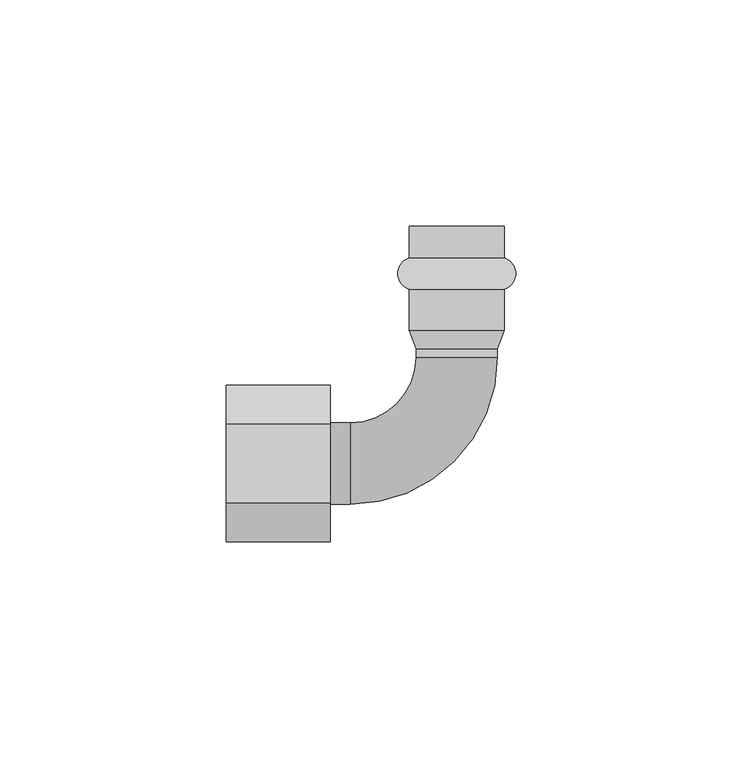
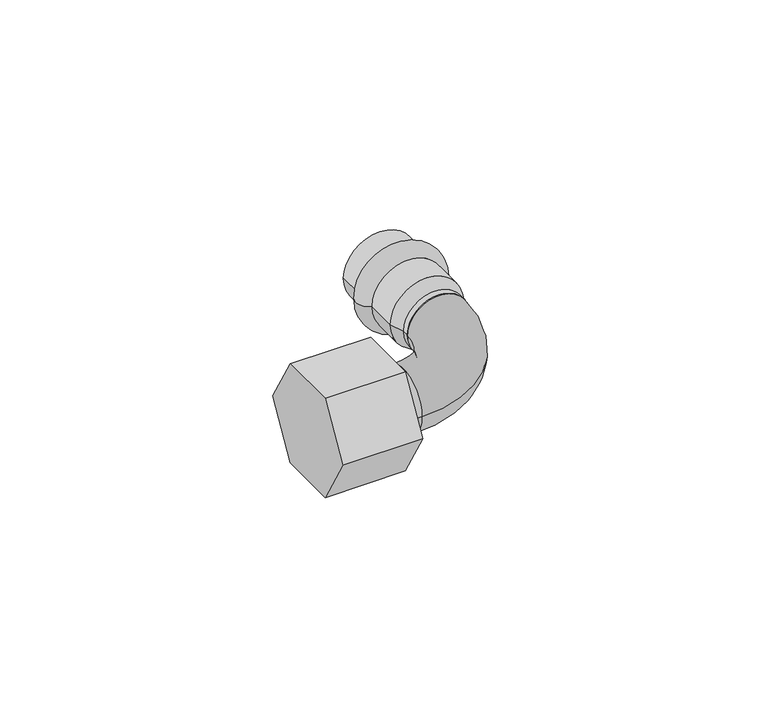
"""IFC4 building model written with IfcOpenShell, lengths in millimetres: valve geometry, Отвод_90°_с_переходом_на_внутреннюю_или_наружнюю_резьбу : VTi.956.I."""

from ifc_helpers import new_model, si_unit, point, frame, origin, place, context, project, spatial, polyline, circle_curve, ellipse_curve, trimmed, outline, extrude, source, transform, mapped, element, save
from ifc_brep_helpers import plane_surface, cylinder_surface, revolved_surface, advanced_brep


def valve_e3d4f6f2(model_context):
    return source(origin(), model_context, "Body", "SolidModel", [
        extrude(outline(polyline([(-8.660254, 15.0), (8.660254, 15.0), (17.3205081, 0.0), (8.660254, -15.0), (-8.660254, -15.0), (-17.3205081, 0.0), (-8.660254, 15.0)])), frame((-51.0, 0.0, 0.0), z_axis=(1.0, 0.0, 0.0), x_axis=(0.0, 1.0, 0.0)), (0.0, 0.0, 1.0), 23.0),
        advanced_brep(
        [(10.45, 45.51, 0.0), (-10.45, 45.51, 0.0), (-10.45, 52.5, 0.0), (10.45, 52.5, 0.0), (10.45, 38.49, 0.0), (-10.45, 38.49, 0.0), (10.45, 29.5, 0.0), (-10.45, 29.5, 0.0), (9.0, 25.38, 0.0), (-9.0, 25.38, 0.0), (9.0, 23.5, 0.0), (-9.0, 23.5, 0.0), (0.0, 23.5, 0.0), (0.0, 52.5, 0.0)],
        [
            (0, 1, circle_curve(frame((0.0, 45.51, 0.0), z_axis=(0.0, 1.0, 0.0), x_axis=(-1.0, 0.0, 0.0)), 10.45)),
            (1, 2),
            (2, 3, circle_curve(frame((0.0, 52.5, 0.0), z_axis=(0.0, -1.0, 0.0), x_axis=(-1.0, 0.0, 0.0)), 10.45)),
            (3, 0),
            (1, 0, circle_curve(frame((0.0, 45.51, 0.0), z_axis=(0.0, 1.0, 0.0), x_axis=(-1.0, 0.0, 0.0)), 10.45)),
            (3, 2, circle_curve(frame((0.0, 52.5, 0.0), z_axis=(0.0, -1.0, 0.0), x_axis=(-1.0, 0.0, 0.0)), 10.45)),
            (4, 5, circle_curve(frame((0.0, 38.49, 0.0), z_axis=(0.0, 1.0, 0.0), x_axis=(-1.0, 0.0, 0.0)), 10.45)),
            (5, 1, circle_curve(frame((-9.3504491, 42.0, 0.0), z_axis=(0.0, 0.0, -1.0), x_axis=(0.0, 1.0, 0.0)), 3.6781941)),
            (0, 4, circle_curve(frame((9.3504491, 42.0, 0.0), z_axis=(0.0, 0.0, -1.0), x_axis=(0.0, 1.0, 0.0)), 3.6781941)),
            (5, 4, circle_curve(frame((0.0, 38.49, 0.0), z_axis=(0.0, 1.0, 0.0), x_axis=(-1.0, 0.0, 0.0)), 10.45)),
            (6, 7, circle_curve(frame((0.0, 29.5, 0.0), z_axis=(0.0, 1.0, 0.0), x_axis=(-1.0, 0.0, 0.0)), 10.45)),
            (7, 5),
            (4, 6),
            (7, 6, circle_curve(frame((0.0, 29.5, 0.0), z_axis=(0.0, 1.0, 0.0), x_axis=(-1.0, 0.0, 0.0)), 10.45)),
            (8, 9, circle_curve(frame((0.0, 25.38, 0.0), z_axis=(0.0, 1.0, 0.0), x_axis=(-1.0, 0.0, 0.0)), 9.0)),
            (9, 7),
            (6, 8),
            (9, 8, circle_curve(frame((0.0, 25.38, 0.0), z_axis=(0.0, 1.0, 0.0), x_axis=(-1.0, 0.0, 0.0)), 9.0)),
            (10, 11, circle_curve(frame((0.0, 23.5, 0.0), z_axis=(0.0, 1.0, 0.0), x_axis=(-1.0, 0.0, 0.0)), 9.0)),
            (11, 9),
            (8, 10),
            (11, 10, circle_curve(frame((0.0, 23.5, 0.0), z_axis=(0.0, 1.0, 0.0), x_axis=(-1.0, 0.0, 0.0)), 9.0)),
            (12, 11),
            (10, 12),
            (2, 13),
            (13, 3),
        ],
        [
            cylinder_surface(frame((0.0, 2052.5, 0.0), z_axis=(0.0, -1.0, 0.0), x_axis=(-1.0, 0.0, 0.0)), 10.45),
            revolved_surface(trimmed(ellipse_curve(frame((-9.3504491, 42.0, 0.0), z_axis=(0.0, 0.0, 1.0), x_axis=(0.0, 1.0, 0.0)), 3.6781941, 3.6781941), [point((-10.45, 45.51, 0.0))], [point((-10.45, 38.49, 0.0))], True, "CARTESIAN"), (0.0, 2052.5, 0.0), (0.0, -1.0, 0.0)),
            revolved_surface(polyline([(-10.45, 29.5, 0.0), (-9.0, 25.38, 0.0)]), (0.0, 2052.5, 0.0), (0.0, -1.0, 0.0)),
            cylinder_surface(frame((0.0, 2052.5, 0.0), z_axis=(0.0, -1.0, 0.0), x_axis=(-1.0, 0.0, 0.0)), 9.0),
            plane_surface(frame((0.0, 23.5, 0.0), z_axis=(0.0, -1.0, 0.0), x_axis=(-1.0, 0.0, 0.0))),
            plane_surface(frame((0.0, 52.5, 0.0), z_axis=(0.0, 1.0, 0.0), x_axis=(-1.0, 0.0, 0.0))),
        ],
        [
            (0, [[1, 2, 3, 4]]),
            (0, [[5, -4, 6, -2]]),
            (1, [[7, 8, -1, 9]]),
            (1, [[10, -9, -5, -8]]),
            (0, [[11, 12, -7, 13]]),
            (0, [[14, -13, -10, -12]]),
            (2, [[15, 16, -11, 17]]),
            (2, [[18, -17, -14, -16]]),
            (3, [[19, 20, -15, 21]]),
            (3, [[22, -21, -18, -20]]),
            (4, [[23, -19, 24]]),
            (4, [[-24, -22, -23]]),
            (5, [[-3, 25, 26]]),
            (5, [[-6, -26, -25]]),
        ],
    ),
        advanced_brep(
        [(-23.5, -9.0, 0.0), (-23.5, 9.0, 0.0), (-23.5, 0.0, 0.0), (-28.0, -9.0, 0.0), (-28.0, 9.0, 0.0), (-28.0, 0.0, 0.0)],
        [
            (0, 1, circle_curve(frame((-23.5, 0.0, 0.0), z_axis=(1.0, 0.0, 0.0), x_axis=(0.0, 1.0, 0.0)), 9.0)),
            (1, 2),
            (2, 0),
            (1, 0, circle_curve(frame((-23.5, 0.0, 0.0), z_axis=(1.0, 0.0, 0.0), x_axis=(0.0, 1.0, 0.0)), 9.0)),
            (3, 4, circle_curve(frame((-28.0, 0.0, 0.0), z_axis=(1.0, 0.0, 0.0), x_axis=(0.0, 1.0, 0.0)), 9.0)),
            (4, 1),
            (0, 3),
            (4, 3, circle_curve(frame((-28.0, 0.0, 0.0), z_axis=(1.0, 0.0, 0.0), x_axis=(0.0, 1.0, 0.0)), 9.0)),
            (5, 4),
            (3, 5),
        ],
        [
            plane_surface(frame((-23.5, 0.0, 0.0), z_axis=(1.0, 0.0, 0.0), x_axis=(0.0, 1.0, 0.0))),
            cylinder_surface(frame((2000.0, 0.0, 0.0), z_axis=(-1.0, 0.0, 0.0), x_axis=(0.0, 1.0, 0.0)), 9.0),
            plane_surface(frame((-28.0, 0.0, 0.0), z_axis=(-1.0, 0.0, 0.0), x_axis=(0.0, 1.0, 0.0))),
        ],
        [
            (0, [[1, 2, 3]]),
            (0, [[4, -3, -2]]),
            (1, [[5, 6, -1, 7]]),
            (1, [[8, -7, -4, -6]]),
            (2, [[9, -5, 10]]),
            (2, [[-10, -8, -9]]),
        ],
    ),
        advanced_brep(
        [(-9.0, 23.5, 0.0), (9.0, 23.5, 0.0), (-23.5, 9.0, 0.0), (-23.5, -9.0, 0.0)],
        [
            (0, 1, circle_curve(frame((0.0, 23.5, 0.0), z_axis=(0.0, 1.0, 0.0), x_axis=(1.0, 0.0, 0.0)), 9.0)),
            (1, 0, circle_curve(frame((0.0, 23.5, 0.0), z_axis=(0.0, 1.0, 0.0), x_axis=(1.0, 0.0, 0.0)), 9.0)),
            (2, 3, circle_curve(frame((-23.5, 0.0, 0.0), z_axis=(-1.0, 0.0, 0.0), x_axis=(0.0, -1.0, 0.0)), 9.0)),
            (3, 2, circle_curve(frame((-23.5, 0.0, 0.0), z_axis=(-1.0, 0.0, 0.0), x_axis=(0.0, -1.0, 0.0)), 9.0)),
            (3, 1, circle_curve(frame((-23.5, 23.5, 0.0), z_axis=(0.0, 0.0, 1.0), x_axis=(1.0, 0.0, 0.0)), 32.5)),
            (0, 2, circle_curve(frame((-23.5, 23.5, 0.0), z_axis=(0.0, 0.0, -1.0), x_axis=(1.0, 0.0, 0.0)), 14.5)),
        ],
        [
            plane_surface(frame((0.0, 23.5, 0.0), z_axis=(0.0, 1.0, 0.0), x_axis=(0.0, 0.0, 1.0))),
            plane_surface(frame((-23.5, 0.0, 0.0), z_axis=(-1.0, 0.0, 0.0), x_axis=(0.0, 0.0, 1.0))),
            revolved_surface(trimmed(ellipse_curve(frame((0.0, 23.5, 0.0), z_axis=(0.0, 1.0, 0.0), x_axis=(1.0, 0.0, 0.0)), 9.0, 9.0), [point((-9.0, 23.5, 0.0))], [point((9.0, 23.5, 0.0))], True, "CARTESIAN"), (-23.5, 23.5, 0.0), (0.0, 0.0, -1.0)),
            revolved_surface(trimmed(ellipse_curve(frame((0.0, 23.5, 0.0), z_axis=(0.0, 1.0, 0.0), x_axis=(1.0, 0.0, 0.0)), 9.0, 9.0), [point((9.0, 23.5, 0.0))], [point((-9.0, 23.5, 0.0))], True, "CARTESIAN"), (-23.5, 23.5, 0.0), (0.0, 0.0, -1.0)),
        ],
        [
            (0, [[1, 2]]),
            (1, [[3, 4]]),
            (2, [[5, -1, 6, -4]]),
            (3, [[-6, -2, -5, -3]]),
        ],
    ),
    ])


if __name__ == "__main__":
    model = new_model("IFC4")
    model_context = context("Model", 3, world=origin())
    ifc_project = project(units=[si_unit("LENGTHUNIT", "METRE", prefix="MILLI")], contexts=[model_context])
    site = spatial("IfcSite", under=ifc_project)
    building = spatial("IfcBuilding", under=site)
    placement = place(None, origin())
    valve_shape = valve_e3d4f6f2(model_context)
    element("IfcValve", 1, ObjectType="Отвод_90°_с_переходом_на_внутреннюю_или_наружнюю_резьбу : VTi.956.I", at=placement, inside=building, context=model_context, shape_type="MappedRepresentation", body=[
        mapped(valve_shape, transform((0.0, 0.0, 0.0), x_axis=(1.0, 0.0, 0.0), y_axis=(0.0, 1.0, 0.0), z_axis=(0.0, 0.0, 1.0))),
    ])
    save(model, "model.ifc")
